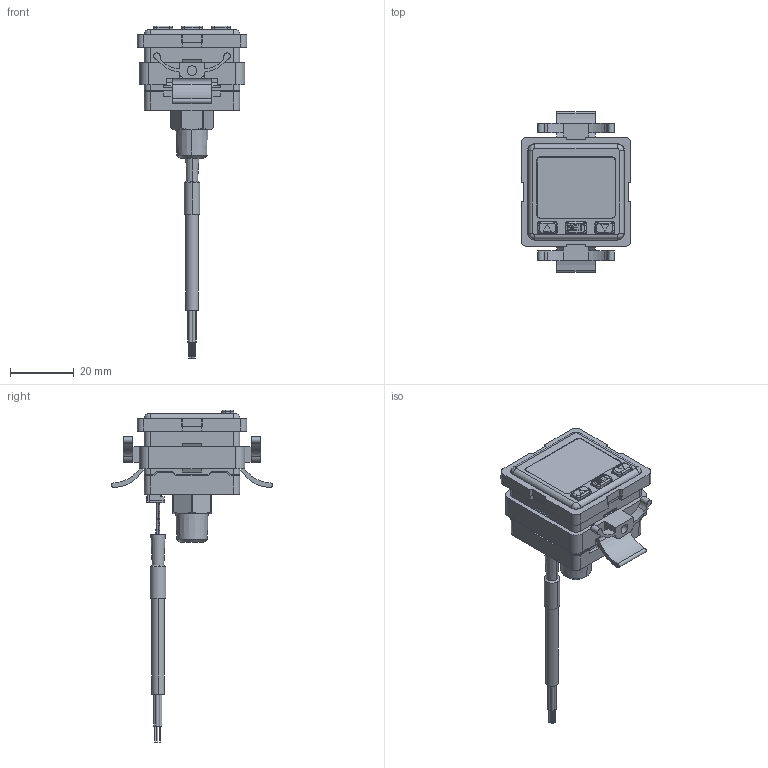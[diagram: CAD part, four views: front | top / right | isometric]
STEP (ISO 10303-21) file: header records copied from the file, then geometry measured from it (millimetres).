
FILE_DESCRIPTION((''),'2;1');
FILE_NAME('KP43-PA-C','2019-06-18T',('Stark'),(''),'CREO PARAMETRIC BY PTC INC, 2014500','CREO PARAMETRIC BY PTC INC, 2014500','');
FILE_SCHEMA(('CONFIG_CONTROL_DESIGN'));
Length unit declared in the file: millimetre
Products named in the file (1): KP43-PA-C
Bounding box: 34.4 x 50.4 x 104.05 mm (x, y, z)
Volume: 26995.5 mm3; surface area: 13114.6 mm2
Topology: 1 solids, 1 shells, 1027 faces, 2643 edges, 1668 vertices
Faces by surface type: plane 786, cylinder 170, cone 30, bspline 27, torus 13, sphere 1
Entity records: 31844 total; most frequent: CARTESIAN_POINT 6753, ORIENTED_EDGE 5286, DIRECTION 4977, EDGE_CURVE 2643, VECTOR 2161, LINE 2161, VERTEX_POINT 1668, AXIS2_PLACEMENT_3D 1408
